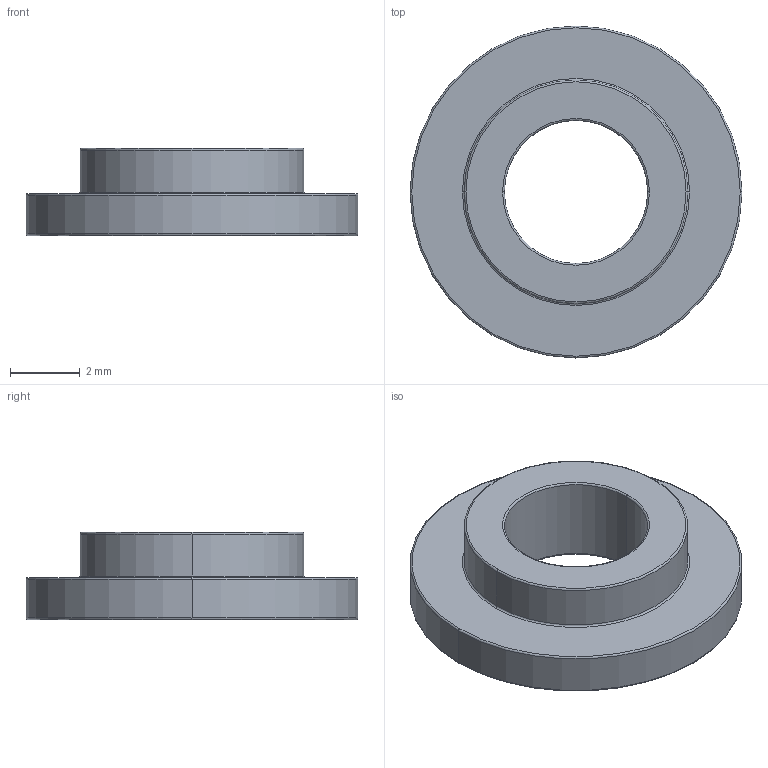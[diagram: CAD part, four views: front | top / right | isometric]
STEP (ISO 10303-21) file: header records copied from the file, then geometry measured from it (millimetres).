
FILE_DESCRIPTION (( 'STEP AP214' ), '1' );
FILE_NAME ('IS585.STEP', '2004-04-06T14:18:17', ( '' ), ( '' ), 'SwSTEP 2.0', 'SolidWorks 2002349', '' );
FILE_SCHEMA (( 'AUTOMOTIVE_DESIGN' ));
Length unit declared in the file: millimetre
Products named in the file (1): IS585
Bounding box: 9.5 x 9.5 x 2.5 mm (x, y, z)
Volume: 93.8 mm3; surface area: 206.8 mm2
Topology: 1 solids, 1 shells, 21 faces, 42 edges, 24 vertices
Faces by surface type: torus 12, cylinder 6, plane 3
Entity records: 583 total; most frequent: DIRECTION 122, CARTESIAN_POINT 88, ORIENTED_EDGE 84, AXIS2_PLACEMENT_3D 58, EDGE_CURVE 42, CIRCLE 36, EDGE_LOOP 24, VERTEX_POINT 24
